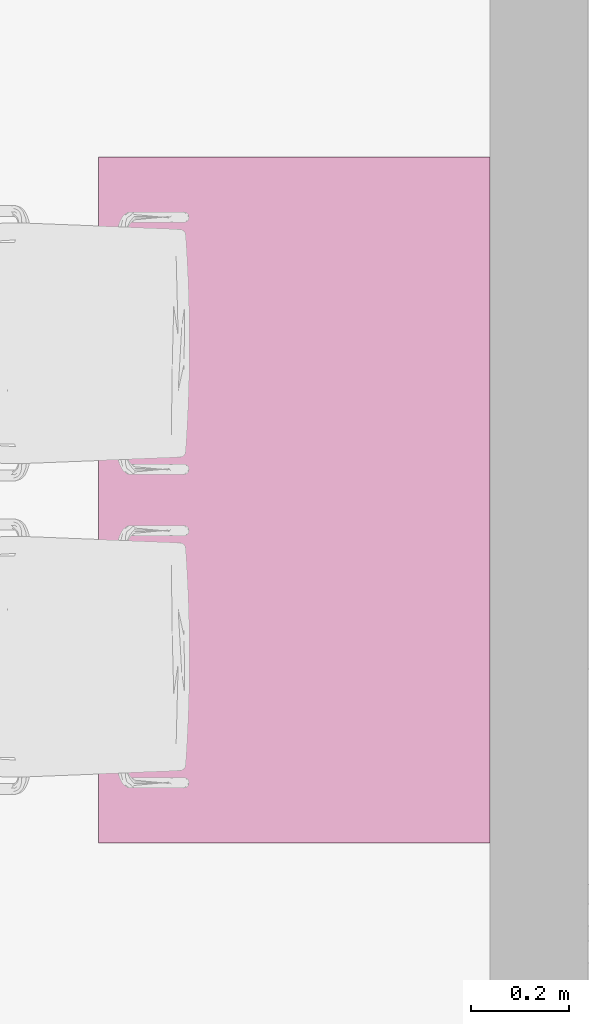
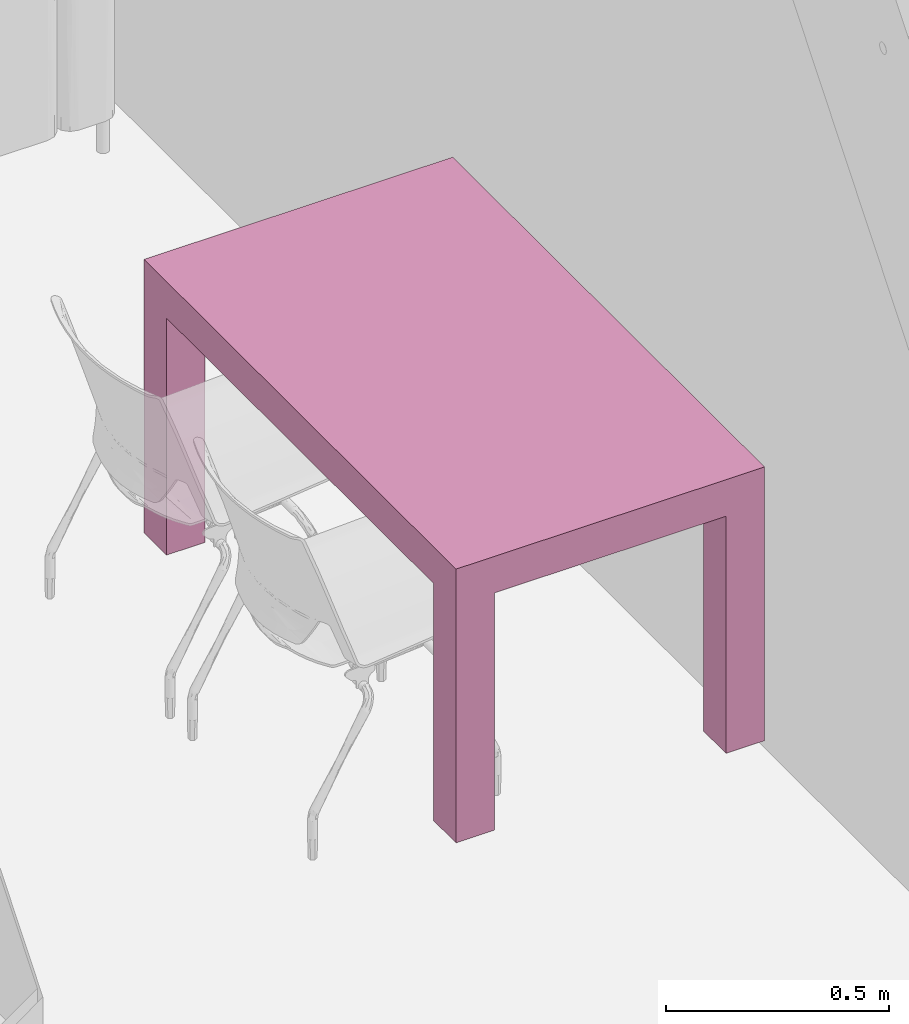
# One storey, part 78 of 125: 1 furnishing.
"""IFC2X3 building model written with IfcOpenShell, lengths in millimetres."""

from ifc_helpers import new_model, entity, si_unit, converted_unit, direction, frame, origin, place, context, subcontext, project, spatial, faceted_brep, source, transform, mapped, material, type_object, type_shapes, element, save


model = new_model("IFC2X3")

# Units and contexts
model_context = context("Model", 3, precision=0.01, world=origin(), true_north=direction((6.123233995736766e-17, 1.0)))
plan_context = context("Plan", 3, precision=0.01, world=origin(), true_north=direction((6.123233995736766e-17, 1.0)))
body_context = subcontext(model_context, "Body", "Model", "MODEL_VIEW")
ifc_project = project(units=[si_unit("LENGTHUNIT", "METRE", prefix="MILLI"), converted_unit("PLANEANGLEUNIT", "DEGREE", entity("IfcPlaneAngleMeasure", 0.017453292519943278), si_unit("PLANEANGLEUNIT", "RADIAN"), dimensions=[0, 0, 0, 0, 0, 0, 0]), si_unit("AREAUNIT", "SQUARE_METRE")], contexts=[model_context, plan_context])

# Site, building, storey, space
site_placement = place(None, origin())
site = spatial("IfcSite", under=ifc_project, at=site_placement, Name="Default", CompositionType="ELEMENT")
building_placement = place(site_placement, origin())
building = spatial("IfcBuilding", under=site, at=building_placement, CompositionType="ELEMENT")
storey_placement = place(building_placement, frame((0.0, 0.0, 3125.0)))
storey = spatial("IfcBuildingStorey", under=building, at=storey_placement, Name="2K", CompositionType="ELEMENT", Elevation=3125.0)
space_placement = place(storey_placement, origin())
space = spatial("IfcSpace", under=storey, at=space_placement, Name="2-2.2", CompositionType="ELEMENT", InteriorOrExteriorSpace="INTERNAL")

# Furnishing
ifc_material = material(Name="<Unnamed>")
furniture_type = type_object("IfcFurnitureType", Name="HR_Furniture_Table_Generic_v2016-02-11:1600x800", AssemblyPlace="NOTDEFINED", material=ifc_material)
shared_shape = source(origin(), body_context, "Body", "Brep", [
    faceted_brep([(-400.0, -600.0, 0.0), (-300.0, -600.0, 0.0), (-300.0, -700.0, 0.0), (-400.0, -700.0, 0.0), (-300.0, 700.0, 0.0), (-400.0, 700.0, 0.0), (-400.0, 700.0, 750.0), (400.0, 700.0, 750.0), (400.0, 700.0, 0.0), (300.0, 700.0, 0.0), (300.0, 700.0, 650.0), (-300.0, 700.0, 650.0), (-400.0, 600.0, 0.0), (-400.0, 600.0, 650.0), (-400.0, -600.0, 650.0), (-400.0, -700.0, 750.0), (-300.0, 600.0, 0.0), (-300.0, 600.0, 650.0), (300.0, 600.0, 0.0), (300.0, 600.0, 650.0), (400.0, 600.0, 0.0), (400.0, 600.0, 650.0), (400.0, -700.0, 750.0), (400.0, -700.0, 0.0), (400.0, -600.0, 0.0), (400.0, -600.0, 650.0), (300.0, -600.0, 0.0), (300.0, -600.0, 650.0), (300.0, -700.0, 0.0), (300.0, -700.0, 650.0), (-300.0, -700.0, 650.0), (-300.0, -600.0, 650.0)], [[[0, 1, 2, 3]], [[4, 5, 6, 7, 8, 9, 10, 11]], [[6, 5, 12, 13, 14, 0, 3, 15]], [[12, 16, 17, 13]], [[16, 4, 11, 17]], [[9, 18, 19, 10]], [[18, 20, 21, 19]], [[20, 8, 7, 22, 23, 24, 25, 21]], [[24, 26, 27, 25]], [[26, 28, 29, 27]], [[28, 23, 22, 15, 3, 2, 30, 29]], [[2, 1, 31, 30]], [[1, 0, 14, 31]], [[7, 6, 15, 22]], [[11, 10, 19, 21, 25, 27, 29, 30, 31, 14, 13, 17]], [[4, 16, 12, 5]], [[8, 20, 18, 9]], [[24, 23, 28, 26]]]),
])
type_shapes(furniture_type, [shared_shape])
furnishing_placement = place(space_placement, frame((9550.0, 10635.0, 0.0)))
element("IfcFurnishingElement", 1, at=furnishing_placement, inside=space, type_object=furniture_type, material=ifc_material, Name="HR_Furniture_Table_Generic_v2016-02-11:1600x800", ObjectType="HR_Furniture_Table_Generic_v2016-02-11:1600x800", context=body_context, shape_type="MappedRepresentation", body=[
    mapped(shared_shape, transform((0.0, 0.0, 0.0), scale=1.0)),
])

save(model, "model.ifc")
